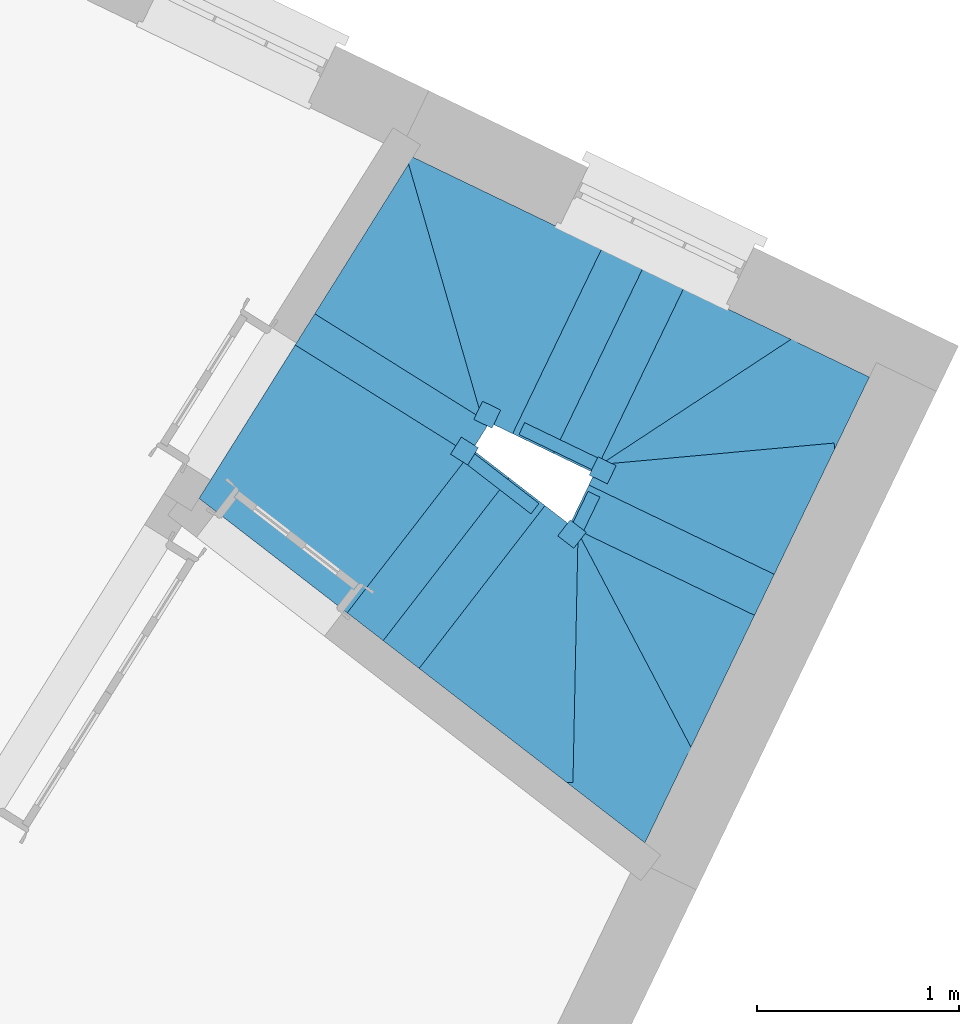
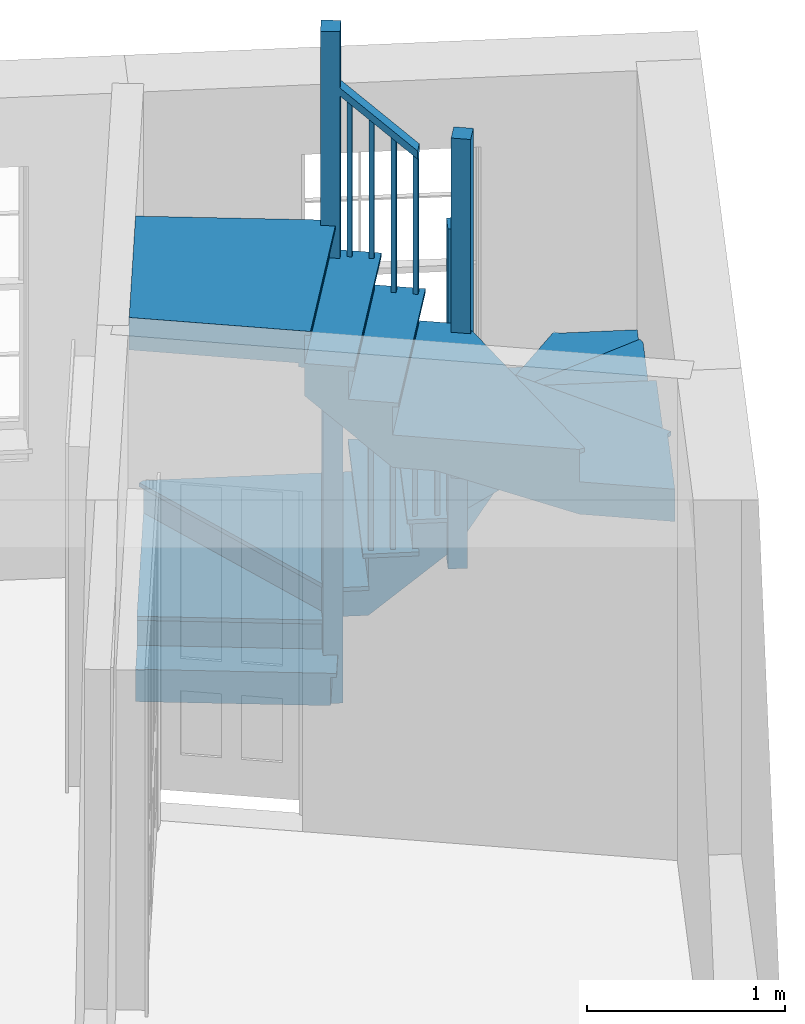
# One storey, part 4 of 4: 1 stair.
"""IFC4 building model written with IfcOpenShell, lengths in metres."""

import ifcopenshell
import ifcopenshell.guid

model = None  # the IFC model being written
_history = None  # IfcOwnerHistory: only IFC2X3 demands one
_inside = {}  # id of a spatial element -> (the spatial element, [elements in it])
_under = {}  # id of a project, library or spatial element -> (it, [spatial elements below it])
_declared = {}  # id of a project -> (the project, [libraries it declares])
_typed = {}  # id of a type object -> (the type object, [elements of that type])
_made_of = {}  # id of a material, layer set ... -> (it, [elements and type objects made of it])


def new_model(schema):
    """Start an empty IFC model of exactly this schema.

    Asked for "IFC4X3", IfcOpenShell would pick the latest addendum, in which some entities
    have other attributes; the version numbers below select the first issue.
    IFC2X3 requires an IfcOwnerHistory on every rooted entity: one is made here for all.
    """
    global model, _history
    if schema == "IFC4X3":
        model = ifcopenshell.file(schema_version=(4, 3, 0, 0))
    else:
        model = ifcopenshell.file(schema=schema)
    _inside.clear()
    _under.clear()
    _declared.clear()
    _typed.clear()
    _made_of.clear()
    _history = None
    if model.schema == "IFC2X3":
        org = make("IfcOrganization", Name="unknown")
        user = make(
            "IfcPersonAndOrganization",
            ThePerson=make("IfcPerson", FamilyName="unknown"),
            TheOrganization=org,
        )
        app = make(
            "IfcApplication",
            ApplicationDeveloper=org,
            Version="unknown",
            ApplicationFullName="unknown",
            ApplicationIdentifier="unknown",
        )
        _history = make(
            "IfcOwnerHistory",
            OwningUser=user,
            OwningApplication=app,
            ChangeAction="ADDED",
            CreationDate=0,
        )
    return model


def make(cls, **values):
    """One entity of the class cls with the attributes given. An attribute that is None is left unset."""
    return model.create_entity(
        cls, **{name: value for name, value in values.items() if value is not None}
    )


def rooted(cls, **values):
    """An entity with a GlobalId (a new one), such as an element, a storey or a relation."""
    return make(cls, GlobalId=ifcopenshell.guid.new(), OwnerHistory=_history, **values)


def si_unit(unit_type, name, prefix=None):
    """IfcSIUnit, for example si_unit("LENGTHUNIT", "METRE", prefix="MILLI")."""
    return make("IfcSIUnit", UnitType=unit_type, Prefix=prefix, Name=name)


def assignment(units):
    """IfcUnitAssignment: the units of a project."""
    return None if units is None else make("IfcUnitAssignment", Units=units)


def point(xyz):
    """IfcCartesianPoint."""
    return None if xyz is None else make("IfcCartesianPoint", Coordinates=xyz)


def direction(xyz):
    """IfcDirection."""
    return None if xyz is None else make("IfcDirection", DirectionRatios=xyz)


def frame(location, z_axis=None, x_axis=None):
    """IfcAxis2Placement3D, a coordinate frame: its origin and axes. An axis left out is left unset."""
    return make(
        "IfcAxis2Placement3D",
        Location=point(location),
        Axis=direction(z_axis),
        RefDirection=direction(x_axis),
    )


def origin():
    """The frame at (0, 0, 0) with its axes left unset."""
    return frame((0.0, 0.0, 0.0))


def origin_with_axes():
    """The frame at (0, 0, 0) with the z axis (0, 0, 1) and the x axis (1, 0, 0) written out."""
    return frame((0.0, 0.0, 0.0), z_axis=(0.0, 0.0, 1.0), x_axis=(1.0, 0.0, 0.0))


def place(relative_to, where):
    """IfcLocalPlacement: puts the frame where relative to a parent placement (None: the world)."""
    return make(
        "IfcLocalPlacement", PlacementRelTo=relative_to, RelativePlacement=where
    )


def context(
    kind, dimensions, precision=None, world=None, true_north=None, identifier=None
):
    """IfcGeometricRepresentationContext, for example the 3D "Model" context."""
    return make(
        "IfcGeometricRepresentationContext",
        ContextIdentifier=identifier,
        ContextType=kind,
        CoordinateSpaceDimension=dimensions,
        Precision=precision,
        WorldCoordinateSystem=world,
        TrueNorth=true_north,
    )


def subcontext(parent, identifier, kind, view, scale=None):
    """IfcGeometricRepresentationSubContext, for example "Body" below "Model"."""
    return make(
        "IfcGeometricRepresentationSubContext",
        ContextIdentifier=identifier,
        ContextType=kind,
        ParentContext=parent,
        TargetScale=scale,
        TargetView=view,
    )


def project(units=None, contexts=None):
    """IfcProject with its units and contexts."""
    return rooted(
        "IfcProject",
        Name="project",
        RepresentationContexts=contexts,
        UnitsInContext=assignment(units),
    )


def spatial(cls, under=None, at=None, **own):
    """A site, building, storey or space (cls), placed at a placement, below another one or the project."""
    s = rooted(cls, ObjectPlacement=at, **own)
    if under is not None:
        _under.setdefault(under.id(), (under, []))[1].append(s)
    return s


def faces_of(points, faces, orient=None, outer=None):
    """IfcFace entities. A face is a list of loops; a loop is a list of indices into points, from 0.

    orient and outer hold one flag for each loop. By default every Orientation is true, the
    first loop of a face is its IfcFaceOuterBound and the others are IfcFaceBound.
    """
    made = []
    for i, loops in enumerate(faces):
        bounds = []
        for j, loop in enumerate(loops):
            is_outer = j == 0 if outer is None else outer[i][j]
            bounds.append(
                make(
                    "IfcFaceOuterBound" if is_outer else "IfcFaceBound",
                    Bound=make("IfcPolyLoop", Polygon=[points[k] for k in loop]),
                    Orientation=True if orient is None else orient[i][j],
                )
            )
        made.append(make("IfcFace", Bounds=bounds))
    return made


def faceted_brep(points, faces, orient=None, outer=None, voids=None):
    """IfcFacetedBrep: a solid bounded by flat faces; with voids (closed shells), ...WithVoids."""
    shared = [point(p) for p in points]
    hull = make("IfcClosedShell", CfsFaces=faces_of(shared, faces, orient, outer))
    if voids is None:
        return make("IfcFacetedBrep", Outer=hull)
    return make(
        "IfcFacetedBrepWithVoids",
        Outer=hull,
        Voids=[
            make(cls, CfsFaces=faces_of(shared, fs, o, b)) for cls, fs, o, b in voids
        ],
    )


def shape(context_of_items, identifier, shape_type, items):
    """IfcShapeRepresentation: the items that make up one representation, for example the "Body"."""
    return make(
        "IfcShapeRepresentation",
        ContextOfItems=context_of_items,
        RepresentationIdentifier=identifier,
        RepresentationType=shape_type,
        Items=items,
    )


def made_of(thing, what):
    """Note that an element or type object is made of a material, layer set ...; save() writes the relation."""
    if what is not None:
        _made_of.setdefault(what.id(), (what, []))[1].append(thing)
    return thing


def element(
    cls,
    number,
    at=None,
    inside=None,
    cuts=None,
    type_object=None,
    material=None,
    context=None,
    identifier="Body",
    shape_type=None,
    held_by="IfcProductDefinitionShape",
    body=None,
    shapes=None,
    **own,
):
    """One element of the class cls, such as IfcWall. Its Tag is "e" and its number.

    at: its placement. inside: the storey or other place that contains it. cuts: it is an
    opening in that element (IfcRelVoidsElement). A single representation is given by context,
    identifier, shape_type and body (its items); several are given by shapes. held_by: the class
    of the entity that holds the representations. save() writes the other relations.
    """
    e = rooted(cls, Tag="e%d" % number, ObjectPlacement=at, **own)
    if body is not None:
        shapes = [shape(context, identifier, shape_type, body)]
    if shapes is not None:
        e.Representation = make(held_by, Representations=shapes)
    if inside is not None:
        _inside.setdefault(inside.id(), (inside, []))[1].append(e)
    if cuts is not None:
        rooted(
            "IfcRelVoidsElement", RelatingBuildingElement=cuts, RelatedOpeningElement=e
        )
    if type_object is not None:
        _typed.setdefault(type_object.id(), (type_object, []))[1].append(e)
    return made_of(e, material)


def aggregate(whole, parts):
    """IfcRelAggregates: a whole, such as a stair, and the parts it consists of."""
    return rooted("IfcRelAggregates", RelatingObject=whole, RelatedObjects=parts)


def save(model, path):
    """Write the relations noted so far, then the file.

    IfcRelAggregates (storeys below a building ...), IfcRelContainedInSpatialStructure (elements
    in a storey), IfcRelDefinesByType, IfcRelAssociatesMaterial and IfcRelDeclares: one each for
    every whole, place, type object, material and project.
    """
    for whole, parts in _under.values():
        aggregate(whole, parts)
    for where, things in _inside.values():
        rooted(
            "IfcRelContainedInSpatialStructure",
            RelatedElements=things,
            RelatingStructure=where,
        )
    for kind, things in _typed.values():
        rooted("IfcRelDefinesByType", RelatedObjects=things, RelatingType=kind)
    for what, things in _made_of.values():
        rooted("IfcRelAssociatesMaterial", RelatedObjects=things, RelatingMaterial=what)
    for by, libraries in _declared.values():
        rooted("IfcRelDeclares", RelatingContext=by, RelatedDefinitions=libraries)
    model.write(path)


model = new_model("IFC4")

# Units and contexts
model_context = context("Model", 3, world=origin_with_axes())
body_context = subcontext(model_context, "Body", "Model", "MODEL_VIEW")
ifc_project = project(units=[si_unit("PLANEANGLEUNIT", "RADIAN"), si_unit("MASSUNIT", "GRAM", prefix="KILO"), si_unit("FORCEUNIT", "NEWTON", prefix="KILO"), si_unit("LENGTHUNIT", "METRE"), si_unit("AREAUNIT", "SQUARE_METRE"), si_unit("VOLUMEUNIT", "CUBIC_METRE")], contexts=[model_context, model_context])

# Sites, building, storey
site_1_placement = place(None, origin_with_axes())
site_1 = spatial("IfcSite", under=ifc_project, at=site_1_placement, Name="Tamar")
site_2_placement = place(site_1_placement, origin_with_axes())
site_2 = spatial("IfcSite", under=site_1, at=site_2_placement, Name="Site plot-0", CompositionType="ELEMENT")
building_placement = place(None, origin_with_axes())
building = spatial("IfcBuilding", under=site_2, at=building_placement, Name="Building plot-0", CompositionType="ELEMENT")
storey_placement = place(None, frame((0.0, 0.0, 29.3), z_axis=(0.0, 0.0, 1.0), x_axis=(1.0, 0.0, 0.0)))
storey = spatial("IfcBuildingStorey", under=building, at=storey_placement, Name="plot-0 1", CompositionType="ELEMENT", Elevation=29.3)

# Stair
stair_placement = place(None, origin())
element("IfcStair", 1, at=stair_placement, inside=storey, Name="Stair", PredefinedType="NOTDEFINED", context=body_context, shape_type="Brep", body=[
    faceted_brep([(219.2889, 299.676695, 32.1), (218.684835, 298.894737, 32.1), (218.862893, 298.757186, 32.1), (219.466959, 299.539144, 32.1), (219.466959, 299.539144, 31.7), (218.862893, 298.757186, 31.7), (218.684835, 298.894737, 31.9), (219.2889, 299.676695, 31.9)], [[[0, 1, 2, 3]], [[4, 5, 6, 7]], [[7, 6, 1, 0]], [[1, 6, 5, 2]], [[5, 4, 3, 2]], [[3, 4, 7, 0]]]),
    faceted_brep([(218.862893, 298.757186, 32.075), (218.886634, 298.738846, 32.075), (218.862893, 298.757186, 32.1), (218.661094, 298.913077, 32.075), (218.684835, 298.894737, 32.075), (218.684835, 298.894737, 32.1), (218.886634, 298.738846, 32.1), (218.661094, 298.913077, 32.1), (219.50904, 299.544545, 32.1), (219.466959, 299.539144, 32.1), (219.466959, 299.539144, 32.075), (219.50904, 299.544545, 32.075), (219.283499, 299.718776, 32.1), (219.2889, 299.676695, 32.1), (219.2889, 299.676695, 32.075), (219.283499, 299.718776, 32.075)], [[[0, 1, 2]], [[3, 4, 5]], [[1, 6, 2]], [[7, 3, 5]], [[2, 6, 8, 9]], [[0, 2, 9, 10]], [[1, 0, 10, 11]], [[6, 1, 11, 8]], [[9, 8, 12, 13]], [[10, 9, 13, 14]], [[11, 10, 14, 15]], [[8, 11, 15, 12]], [[13, 12, 7, 5]], [[14, 13, 5, 4]], [[15, 14, 4, 3]], [[12, 15, 3, 7]]]),
    faceted_brep([(219.466959, 299.539144, 33.0), (219.447175, 299.554428, 33.0), (219.431891, 299.534643, 33.0), (219.451675, 299.51936, 33.0), (219.451675, 299.51936, 32.1), (219.431891, 299.534643, 32.1), (219.447175, 299.554428, 32.1), (219.466959, 299.539144, 32.1)], [[[0, 1, 2, 3]], [[4, 5, 6, 7]], [[7, 6, 1, 0]], [[6, 5, 2, 1]], [[5, 4, 3, 2]], [[4, 7, 0, 3]]]),
    faceted_brep([(219.37793, 299.60792, 33.1), (219.358145, 299.623203, 33.1), (219.342862, 299.603419, 33.1), (219.362646, 299.588135, 33.1), (219.362646, 299.588135, 32.1), (219.342862, 299.603419, 32.1), (219.358145, 299.623203, 32.1), (219.37793, 299.60792, 32.1)], [[[0, 1, 2, 3]], [[4, 5, 6, 7]], [[7, 6, 1, 0]], [[6, 5, 2, 1]], [[5, 4, 3, 2]], [[4, 7, 0, 3]]]),
    faceted_brep([(219.439449, 299.503533, 32.95), (219.479186, 299.554972, 32.95), (219.479186, 299.554972, 33.0), (219.439449, 299.503533, 33.0), (219.301127, 299.692522, 33.15), (219.26139, 299.641083, 33.15), (219.26139, 299.641083, 33.2), (219.301127, 299.692522, 33.2)], [[[0, 1, 2, 3]], [[4, 5, 6, 7]], [[0, 5, 4, 1]], [[3, 2, 7, 6]], [[0, 3, 6, 5]], [[2, 1, 4, 7]]]),
    faceted_brep([(219.466959, 299.539144, 31.9), (218.862893, 298.757186, 31.9), (219.040952, 298.619635, 31.9), (219.645017, 299.401594, 31.9), (219.645017, 299.401594, 31.5), (219.040952, 298.619635, 31.5), (218.862893, 298.757186, 31.7), (219.466959, 299.539144, 31.7)], [[[0, 1, 2, 3]], [[4, 5, 6, 7]], [[7, 6, 1, 0]], [[1, 6, 5, 2]], [[5, 4, 3, 2]], [[3, 4, 7, 0]]]),
    faceted_brep([(219.064693, 298.601295, 31.875), (219.064693, 298.601295, 31.9), (219.040952, 298.619635, 31.875), (218.839152, 298.775526, 31.9), (218.839152, 298.775526, 31.875), (218.862893, 298.757186, 31.875), (219.040952, 298.619635, 31.9), (218.862893, 298.757186, 31.9), (219.687099, 299.406995, 31.9), (219.645017, 299.401594, 31.9), (219.645017, 299.401594, 31.875), (219.687099, 299.406995, 31.875), (219.461558, 299.581226, 31.9), (219.466959, 299.539144, 31.9), (219.466959, 299.539144, 31.875), (219.461558, 299.581226, 31.875)], [[[0, 1, 2]], [[3, 4, 5]], [[2, 1, 6]], [[3, 5, 7]], [[6, 1, 8, 9]], [[2, 6, 9, 10]], [[0, 2, 10, 11]], [[1, 0, 11, 8]], [[9, 8, 12, 13]], [[10, 9, 13, 14]], [[11, 10, 14, 15]], [[8, 11, 15, 12]], [[13, 12, 3, 7]], [[14, 13, 7, 5]], [[15, 14, 5, 4]], [[12, 15, 4, 3]]]),
    faceted_brep([(219.645017, 299.401594, 32.8), (219.625233, 299.416877, 32.8), (219.60995, 299.397093, 32.8), (219.629734, 299.381809, 32.8), (219.629734, 299.381809, 31.9), (219.60995, 299.397093, 31.9), (219.625233, 299.416877, 31.9), (219.645017, 299.401594, 31.9)], [[[0, 1, 2, 3]], [[4, 5, 6, 7]], [[7, 6, 1, 0]], [[6, 5, 2, 1]], [[5, 4, 3, 2]], [[4, 7, 0, 3]]]),
    faceted_brep([(219.555988, 299.470369, 32.9), (219.536204, 299.485652, 32.9), (219.52092, 299.465868, 32.9), (219.540705, 299.450585, 32.9), (219.540705, 299.450585, 31.9), (219.52092, 299.465868, 31.9), (219.536204, 299.485652, 31.9), (219.555988, 299.470369, 31.9)], [[[0, 1, 2, 3]], [[4, 5, 6, 7]], [[7, 6, 1, 0]], [[6, 5, 2, 1]], [[5, 4, 3, 2]], [[4, 7, 0, 3]]]),
    faceted_brep([(219.617507, 299.365982, 32.75), (219.657244, 299.417421, 32.75), (219.657244, 299.417421, 32.8), (219.617507, 299.365982, 32.8), (219.479186, 299.554972, 32.95), (219.439449, 299.503533, 32.95), (219.439449, 299.503533, 33.0), (219.479186, 299.554972, 33.0)], [[[0, 1, 2, 3]], [[4, 5, 6, 7]], [[0, 5, 4, 1]], [[3, 2, 7, 6]], [[0, 3, 6, 5]], [[2, 1, 4, 7]]]),
    faceted_brep([(219.645017, 299.401594, 31.7), (219.040952, 298.619635, 31.7), (219.21646, 298.484054, 31.7), (219.820526, 299.266013, 31.7), (219.820526, 299.266013, 31.5), (219.21646, 298.484054, 31.5), (219.040952, 298.619635, 31.5), (219.645017, 299.401594, 31.5)], [[[0, 1, 2, 3]], [[4, 5, 6, 7]], [[7, 6, 1, 0]], [[6, 5, 2, 1]], [[5, 4, 3, 2]], [[4, 7, 0, 3]]]),
    faceted_brep([(219.820526, 299.266013, 31.675), (219.838866, 299.289754, 31.675), (219.820526, 299.266013, 31.7), (219.663357, 299.425335, 31.675), (219.645017, 299.401594, 31.675), (219.645017, 299.401594, 31.7), (219.838866, 299.289754, 31.7), (219.663357, 299.425335, 31.7)], [[[0, 1, 2]], [[3, 4, 5]], [[1, 6, 2]], [[7, 3, 5]], [[2, 6, 7, 5]], [[0, 2, 5, 4]], [[1, 0, 4, 3]], [[6, 1, 3, 7]]]),
    faceted_brep([(219.890661, 299.275015, 32.9), (219.811524, 299.336148, 32.9), (219.75039, 299.257011, 32.9), (219.829527, 299.195877, 32.9), (219.829527, 299.195877, 31.7), (219.75039, 299.257011, 31.7), (219.811524, 299.336148, 31.7), (219.890661, 299.275015, 31.7)], [[[0, 1, 2, 3]], [[4, 5, 6, 7]], [[7, 6, 1, 0]], [[6, 5, 2, 1]], [[5, 4, 3, 2]], [[4, 7, 0, 3]]]),
    faceted_brep([(219.21646, 298.484054, 31.7), (219.795399, 298.036822, 31.7), (219.820526, 299.266013, 31.7), (219.820526, 299.266013, 31.3), (219.795399, 298.036822, 31.3), (219.21646, 298.484054, 31.5)], [[[0, 1, 2]], [[3, 4, 5]], [[0, 5, 4, 1]], [[4, 3, 2, 1]], [[2, 3, 5, 0]]]),
    faceted_brep([(219.825393, 298.036209, 31.675), (219.825393, 298.036209, 31.7), (219.795399, 298.036822, 31.675), (219.850519, 299.2654, 31.7), (219.850519, 299.2654, 31.675), (219.820526, 299.266013, 31.675), (219.795399, 298.036822, 31.7), (219.820526, 299.266013, 31.7)], [[[0, 1, 2]], [[3, 4, 5]], [[2, 1, 6]], [[3, 5, 7]], [[6, 1, 3, 7]], [[2, 6, 7, 5]], [[0, 2, 5, 4]], [[1, 0, 4, 3]]]),
    faceted_brep([(219.795399, 298.036822, 31.5), (220.181359, 297.738667, 31.5), (220.393082, 298.178024, 31.5), (219.820526, 299.266013, 31.5), (219.820526, 299.266013, 31.1), (220.393082, 298.178024, 31.1), (220.181359, 297.738667, 31.3), (219.795399, 298.036822, 31.3)], [[[0, 1, 2, 3]], [[4, 5, 6, 7]], [[7, 6, 1, 0]], [[1, 6, 5, 2]], [[5, 4, 3, 2]], [[3, 4, 7, 0]]]),
    faceted_brep([(220.419631, 298.191995, 31.475), (220.419631, 298.191995, 31.5), (220.393082, 298.178024, 31.475), (219.847074, 299.279984, 31.5), (219.847074, 299.279984, 31.475), (219.820526, 299.266013, 31.475), (220.393082, 298.178024, 31.5), (219.820526, 299.266013, 31.5)], [[[0, 1, 2]], [[3, 4, 5]], [[2, 1, 6]], [[3, 5, 7]], [[6, 1, 3, 7]], [[2, 6, 7, 5]], [[0, 2, 5, 4]], [[1, 0, 4, 3]]]),
    faceted_brep([(220.393082, 298.178024, 31.3), (220.710667, 298.837059, 31.3), (219.820526, 299.266013, 31.3), (219.820526, 299.266013, 30.9), (220.710667, 298.837059, 30.9), (220.393082, 298.178024, 31.1)], [[[0, 1, 2]], [[3, 4, 5]], [[0, 5, 4, 1]], [[4, 3, 2, 1]], [[2, 3, 5, 0]]]),
    faceted_brep([(220.710667, 298.837059, 31.275), (220.723691, 298.864084, 31.275), (220.710667, 298.837059, 31.3), (219.833549, 299.293038, 31.275), (219.820526, 299.266013, 31.275), (219.820526, 299.266013, 31.3), (220.723691, 298.864084, 31.3), (219.833549, 299.293038, 31.3)], [[[0, 1, 2]], [[3, 4, 5]], [[1, 6, 2]], [[7, 3, 5]], [[2, 6, 7, 5]], [[0, 2, 5, 4]], [[1, 0, 4, 3]], [[6, 1, 3, 7]]]),
    faceted_brep([(219.890661, 299.275015, 31.7), (219.811524, 299.336148, 31.7), (219.75039, 299.257011, 31.7), (219.829527, 299.195877, 31.7), (219.829527, 299.195877, 30.8), (219.75039, 299.257011, 30.8), (219.811524, 299.336148, 30.8), (219.890661, 299.275015, 30.8)], [[[0, 1, 2, 3]], [[4, 5, 6, 7]], [[7, 6, 1, 0]], [[6, 5, 2, 1]], [[5, 4, 3, 2]], [[4, 7, 0, 3]]]),
    faceted_brep([(219.820526, 299.266013, 31.1), (220.710667, 298.837059, 31.1), (220.808344, 299.039751, 31.1), (219.918202, 299.468705, 31.1), (219.918202, 299.468705, 30.7), (220.808344, 299.039751, 30.7), (220.710667, 298.837059, 30.9), (219.820526, 299.266013, 30.9)], [[[0, 1, 2, 3]], [[4, 5, 6, 7]], [[7, 6, 1, 0]], [[1, 6, 5, 2]], [[5, 4, 3, 2]], [[3, 4, 7, 0]]]),
    faceted_brep([(220.808344, 299.039751, 31.075), (220.821367, 299.066777, 31.075), (220.808344, 299.039751, 31.1), (220.697644, 298.810033, 31.075), (220.710667, 298.837059, 31.075), (220.710667, 298.837059, 31.1), (220.821367, 299.066777, 31.1), (220.697644, 298.810033, 31.1), (219.9042, 299.508755, 31.1), (219.918202, 299.468705, 31.1), (219.918202, 299.468705, 31.075), (219.9042, 299.508755, 31.075), (219.780476, 299.252011, 31.1), (219.820526, 299.266013, 31.1), (219.820526, 299.266013, 31.075), (219.780476, 299.252011, 31.075)], [[[0, 1, 2]], [[3, 4, 5]], [[1, 6, 2]], [[7, 3, 5]], [[2, 6, 8, 9]], [[0, 2, 9, 10]], [[1, 0, 10, 11]], [[6, 1, 11, 8]], [[9, 8, 12, 13]], [[10, 9, 13, 14]], [[11, 10, 14, 15]], [[8, 11, 15, 12]], [[13, 12, 7, 5]], [[14, 13, 5, 4]], [[15, 14, 4, 3]], [[12, 15, 3, 7]]]),
    faceted_brep([(219.918202, 299.468705, 32.0), (219.907349, 299.446184, 32.0), (219.929871, 299.435331, 32.0), (219.940723, 299.457853, 32.0), (219.940723, 299.457853, 31.1), (219.929871, 299.435331, 31.1), (219.907349, 299.446184, 31.1), (219.918202, 299.468705, 31.1)], [[[0, 1, 2, 3]], [[4, 5, 6, 7]], [[7, 6, 1, 0]], [[6, 5, 2, 1]], [[5, 4, 3, 2]], [[4, 7, 0, 3]]]),
    faceted_brep([(219.869364, 299.367359, 32.1), (219.858511, 299.344838, 32.1), (219.881032, 299.333985, 32.1), (219.891885, 299.356506, 32.1), (219.891885, 299.356506, 31.1), (219.881032, 299.333985, 31.1), (219.858511, 299.344838, 31.1), (219.869364, 299.367359, 31.1)], [[[0, 1, 2, 3]], [[4, 5, 6, 7]], [[7, 6, 1, 0]], [[6, 5, 2, 1]], [[5, 4, 3, 2]], [[4, 7, 0, 3]]]),
    faceted_brep([(219.958741, 299.44917, 31.95), (219.900185, 299.477388, 31.95), (219.900185, 299.477388, 32.0), (219.958741, 299.44917, 32.0), (219.802508, 299.274695, 32.15), (219.861064, 299.246478, 32.15), (219.861064, 299.246478, 32.2), (219.802508, 299.274695, 32.2)], [[[0, 1, 2, 3]], [[4, 5, 6, 7]], [[0, 5, 4, 1]], [[3, 2, 7, 6]], [[0, 3, 6, 5]], [[2, 1, 4, 7]]]),
    faceted_brep([(219.918202, 299.468705, 30.9), (220.808344, 299.039751, 30.9), (220.862556, 299.15225, 30.9), (219.972415, 299.581204, 30.9), (219.972415, 299.581204, 30.7), (220.862556, 299.15225, 30.7), (220.808344, 299.039751, 30.7), (219.918202, 299.468705, 30.7)], [[[0, 1, 2, 3]], [[4, 5, 6, 7]], [[7, 6, 1, 0]], [[6, 5, 2, 1]], [[5, 4, 3, 2]], [[4, 7, 0, 3]]]),
    faceted_brep([(219.945389, 299.594228, 30.875), (219.945389, 299.594228, 30.9), (219.972415, 299.581204, 30.875), (219.891176, 299.481729, 30.9), (219.891176, 299.481729, 30.875), (219.918202, 299.468705, 30.875), (219.972415, 299.581204, 30.9), (219.918202, 299.468705, 30.9)], [[[0, 1, 2]], [[3, 4, 5]], [[2, 1, 6]], [[3, 5, 7]], [[6, 1, 3, 7]], [[2, 6, 7, 5]], [[0, 2, 5, 4]], [[1, 0, 4, 3]]]),
    faceted_brep([(219.949078, 299.647953, 32.1), (219.905666, 299.557867, 32.1), (219.995752, 299.514456, 32.1), (220.039163, 299.604541, 32.1), (220.039163, 299.604541, 30.9), (219.995752, 299.514456, 30.9), (219.905666, 299.557867, 30.9), (219.949078, 299.647953, 30.9)], [[[0, 1, 2, 3]], [[4, 5, 6, 7]], [[7, 6, 1, 0]], [[6, 5, 2, 1]], [[5, 4, 3, 2]], [[4, 7, 0, 3]]]),
    faceted_brep([(220.862556, 299.15225, 30.9), (221.119929, 299.686335, 30.9), (219.972415, 299.581204, 30.9), (219.972415, 299.581204, 30.5), (221.119929, 299.686335, 30.5), (220.862556, 299.15225, 30.7)], [[[0, 1, 2]], [[3, 4, 5]], [[0, 5, 4, 1]], [[4, 3, 2, 1]], [[2, 3, 5, 0]]]),
    faceted_brep([(221.117192, 299.71621, 30.875), (221.117192, 299.71621, 30.9), (221.119929, 299.686335, 30.875), (219.969678, 299.611079, 30.9), (219.969678, 299.611079, 30.875), (219.972415, 299.581204, 30.875), (221.119929, 299.686335, 30.9), (219.972415, 299.581204, 30.9)], [[[0, 1, 2]], [[3, 4, 5]], [[2, 1, 6]], [[3, 5, 7]], [[6, 1, 3, 7]], [[2, 6, 7, 5]], [[0, 2, 5, 4]], [[1, 0, 4, 3]]]),
    faceted_brep([(221.119929, 299.686335, 30.7), (221.291511, 300.042392, 30.7), (220.935454, 300.213974, 30.7), (219.972415, 299.581204, 30.7), (219.972415, 299.581204, 30.3), (220.935454, 300.213974, 30.3), (221.291511, 300.042392, 30.5), (221.119929, 299.686335, 30.5)], [[[0, 1, 2, 3]], [[4, 5, 6, 7]], [[7, 6, 1, 0]], [[1, 6, 5, 2]], [[5, 4, 3, 2]], [[3, 4, 7, 0]]]),
    faceted_brep([(220.91898, 300.239046, 30.675), (220.91898, 300.239046, 30.7), (220.935454, 300.213974, 30.675), (219.955941, 299.606277, 30.7), (219.955941, 299.606277, 30.675), (219.972415, 299.581204, 30.675), (220.935454, 300.213974, 30.7), (219.972415, 299.581204, 30.7)], [[[0, 1, 2]], [[3, 4, 5]], [[2, 1, 6]], [[3, 5, 7]], [[6, 1, 3, 7]], [[2, 6, 7, 5]], [[0, 2, 5, 4]], [[1, 0, 4, 3]]]),
    faceted_brep([(220.935454, 300.213974, 30.5), (220.401369, 300.471346, 30.5), (219.972415, 299.581204, 30.5), (219.972415, 299.581204, 30.1), (220.401369, 300.471346, 30.1), (220.935454, 300.213974, 30.3)], [[[0, 1, 2]], [[3, 4, 5]], [[0, 5, 4, 1]], [[4, 3, 2, 1]], [[2, 3, 5, 0]]]),
    faceted_brep([(220.374343, 300.48437, 30.475), (220.374343, 300.48437, 30.5), (220.401369, 300.471346, 30.475), (219.945389, 299.594228, 30.5), (219.945389, 299.594228, 30.475), (219.972415, 299.581204, 30.475), (220.401369, 300.471346, 30.5), (219.972415, 299.581204, 30.5)], [[[0, 1, 2]], [[3, 4, 5]], [[2, 1, 6]], [[3, 5, 7]], [[6, 1, 3, 7]], [[2, 6, 7, 5]], [[0, 2, 5, 4]], [[1, 0, 4, 3]]]),
    faceted_brep([(219.949078, 299.647953, 30.9), (219.905666, 299.557867, 30.9), (219.995752, 299.514456, 30.9), (220.039163, 299.604541, 30.9), (220.039163, 299.604541, 30.0), (219.995752, 299.514456, 30.0), (219.905666, 299.557867, 30.0), (219.949078, 299.647953, 30.0)], [[[0, 1, 2, 3]], [[4, 5, 6, 7]], [[7, 6, 1, 0]], [[6, 5, 2, 1]], [[5, 4, 3, 2]], [[4, 7, 0, 3]]]),
    faceted_brep([(219.972415, 299.581204, 30.3), (220.401369, 300.471346, 30.3), (220.198676, 300.569023, 30.3), (219.769722, 299.678881, 30.3), (219.769722, 299.678881, 29.9), (220.198676, 300.569023, 29.9), (220.401369, 300.471346, 30.1), (219.972415, 299.581204, 30.1)], [[[0, 1, 2, 3]], [[4, 5, 6, 7]], [[7, 6, 1, 0]], [[1, 6, 5, 2]], [[5, 4, 3, 2]], [[3, 4, 7, 0]]]),
    faceted_brep([(220.198676, 300.569023, 30.275), (220.17165, 300.582046, 30.275), (220.198676, 300.569023, 30.3), (220.428394, 300.458323, 30.275), (220.401369, 300.471346, 30.275), (220.401369, 300.471346, 30.3), (220.17165, 300.582046, 30.3), (220.428394, 300.458323, 30.3), (219.729673, 299.664879, 30.3), (219.769722, 299.678881, 30.3), (219.769722, 299.678881, 30.275), (219.729673, 299.664879, 30.275), (219.986417, 299.541155, 30.3), (219.972415, 299.581204, 30.3), (219.972415, 299.581204, 30.275), (219.986417, 299.541155, 30.275)], [[[0, 1, 2]], [[3, 4, 5]], [[1, 6, 2]], [[7, 3, 5]], [[2, 6, 8, 9]], [[0, 2, 9, 10]], [[1, 0, 10, 11]], [[6, 1, 11, 8]], [[9, 8, 12, 13]], [[10, 9, 13, 14]], [[11, 10, 14, 15]], [[8, 11, 15, 12]], [[13, 12, 7, 5]], [[14, 13, 5, 4]], [[15, 14, 4, 3]], [[12, 15, 3, 7]]]),
    faceted_brep([(219.769722, 299.678881, 31.2), (219.792243, 299.668028, 31.2), (219.803096, 299.690549, 31.2), (219.780575, 299.701402, 31.2), (219.780575, 299.701402, 30.3), (219.803096, 299.690549, 30.3), (219.792243, 299.668028, 30.3), (219.769722, 299.678881, 30.3)], [[[0, 1, 2, 3]], [[4, 5, 6, 7]], [[7, 6, 1, 0]], [[6, 5, 2, 1]], [[5, 4, 3, 2]], [[4, 7, 0, 3]]]),
    faceted_brep([(219.871068, 299.630043, 31.3), (219.89359, 299.61919, 31.3), (219.904443, 299.641711, 31.3), (219.881921, 299.652564, 31.3), (219.881921, 299.652564, 30.3), (219.904443, 299.641711, 30.3), (219.89359, 299.61919, 30.3), (219.871068, 299.630043, 30.3)], [[[0, 1, 2, 3]], [[4, 5, 6, 7]], [[7, 6, 1, 0]], [[6, 5, 2, 1]], [[5, 4, 3, 2]], [[4, 7, 0, 3]]]),
    faceted_brep([(219.789257, 299.719419, 31.15), (219.76104, 299.660864, 31.15), (219.76104, 299.660864, 31.2), (219.789257, 299.719419, 31.2), (219.963732, 299.563187, 31.35), (219.99195, 299.621743, 31.35), (219.99195, 299.621743, 31.4), (219.963732, 299.563187, 31.4)], [[[0, 1, 2, 3]], [[4, 5, 6, 7]], [[0, 5, 4, 1]], [[3, 2, 7, 6]], [[0, 3, 6, 5]], [[2, 1, 4, 7]]]),
    faceted_brep([(219.769722, 299.678881, 30.1), (220.198676, 300.569023, 30.1), (219.995983, 300.666699, 30.1), (219.567029, 299.776557, 30.1), (219.567029, 299.776557, 29.7), (219.995983, 300.666699, 29.7), (220.198676, 300.569023, 29.9), (219.769722, 299.678881, 29.9)], [[[0, 1, 2, 3]], [[4, 5, 6, 7]], [[7, 6, 1, 0]], [[1, 6, 5, 2]], [[5, 4, 3, 2]], [[3, 4, 7, 0]]]),
    faceted_brep([(219.995983, 300.666699, 30.075), (219.968958, 300.679723, 30.075), (219.995983, 300.666699, 30.1), (220.225702, 300.555999, 30.075), (220.198676, 300.569023, 30.075), (220.198676, 300.569023, 30.1), (219.968958, 300.679723, 30.1), (220.225702, 300.555999, 30.1), (219.52698, 299.762555, 30.1), (219.567029, 299.776557, 30.1), (219.567029, 299.776557, 30.075), (219.52698, 299.762555, 30.075), (219.783724, 299.638832, 30.1), (219.769722, 299.678881, 30.1), (219.769722, 299.678881, 30.075), (219.783724, 299.638832, 30.075)], [[[0, 1, 2]], [[3, 4, 5]], [[1, 6, 2]], [[7, 3, 5]], [[2, 6, 8, 9]], [[0, 2, 9, 10]], [[1, 0, 10, 11]], [[6, 1, 11, 8]], [[9, 8, 12, 13]], [[10, 9, 13, 14]], [[11, 10, 14, 15]], [[8, 11, 15, 12]], [[13, 12, 7, 5]], [[14, 13, 5, 4]], [[15, 14, 4, 3]], [[12, 15, 3, 7]]]),
    faceted_brep([(219.567029, 299.776557, 31.0), (219.589551, 299.765704, 31.0), (219.600404, 299.788226, 31.0), (219.577882, 299.799079, 31.0), (219.577882, 299.799079, 30.1), (219.600404, 299.788226, 30.1), (219.589551, 299.765704, 30.1), (219.567029, 299.776557, 30.1)], [[[0, 1, 2, 3]], [[4, 5, 6, 7]], [[7, 6, 1, 0]], [[6, 5, 2, 1]], [[5, 4, 3, 2]], [[4, 7, 0, 3]]]),
    faceted_brep([(219.668376, 299.727719, 31.1), (219.690897, 299.716866, 31.1), (219.70175, 299.739387, 31.1), (219.679229, 299.75024, 31.1), (219.679229, 299.75024, 30.1), (219.70175, 299.739387, 30.1), (219.690897, 299.716866, 30.1), (219.668376, 299.727719, 30.1)], [[[0, 1, 2, 3]], [[4, 5, 6, 7]], [[7, 6, 1, 0]], [[6, 5, 2, 1]], [[5, 4, 3, 2]], [[4, 7, 0, 3]]]),
    faceted_brep([(219.586565, 299.817096, 30.95), (219.558347, 299.75854, 30.95), (219.558347, 299.75854, 31.0), (219.586565, 299.817096, 31.0), (219.76104, 299.660864, 31.15), (219.789257, 299.719419, 31.15), (219.789257, 299.719419, 31.2), (219.76104, 299.660864, 31.2)], [[[0, 1, 2, 3]], [[4, 5, 6, 7]], [[0, 5, 4, 1]], [[3, 2, 7, 6]], [[0, 3, 6, 5]], [[2, 1, 4, 7]]]),
    faceted_brep([(219.567029, 299.776557, 29.9), (219.995983, 300.666699, 29.9), (219.830414, 300.746486, 29.9), (219.40146, 299.856344, 29.9), (219.40146, 299.856344, 29.7), (219.830414, 300.746486, 29.7), (219.995983, 300.666699, 29.7), (219.567029, 299.776557, 29.7)], [[[0, 1, 2, 3]], [[4, 5, 6, 7]], [[7, 6, 1, 0]], [[6, 5, 2, 1]], [[5, 4, 3, 2]], [[4, 7, 0, 3]]]),
    faceted_brep([(219.388437, 299.829318, 29.875), (219.388437, 299.829318, 29.9), (219.40146, 299.856344, 29.875), (219.554006, 299.749532, 29.9), (219.554006, 299.749532, 29.875), (219.567029, 299.776557, 29.875), (219.40146, 299.856344, 29.9), (219.567029, 299.776557, 29.9)], [[[0, 1, 2]], [[3, 4, 5]], [[2, 1, 6]], [[3, 5, 7]], [[6, 1, 3, 7]], [[2, 6, 7, 5]], [[0, 2, 5, 4]], [[1, 0, 4, 3]]]),
    faceted_brep([(219.334711, 299.833007, 31.1), (219.424797, 299.789595, 31.1), (219.468209, 299.879681, 31.1), (219.378123, 299.923093, 31.1), (219.378123, 299.923093, 29.9), (219.468209, 299.879681, 29.9), (219.424797, 299.789595, 29.9), (219.334711, 299.833007, 29.9)], [[[0, 1, 2, 3]], [[4, 5, 6, 7]], [[7, 6, 1, 0]], [[6, 5, 2, 1]], [[5, 4, 3, 2]], [[4, 7, 0, 3]]]),
    faceted_brep([(219.830414, 300.746486, 29.9), (219.033699, 301.130418, 29.9), (219.40146, 299.856344, 29.9), (219.40146, 299.856344, 29.5), (219.033699, 301.130418, 29.5), (219.830414, 300.746486, 29.7)], [[[0, 1, 2]], [[3, 4, 5]], [[0, 5, 4, 1]], [[4, 3, 2, 1]], [[2, 3, 5, 0]]]),
    faceted_brep([(219.033699, 301.130418, 29.875), (219.004876, 301.122098, 29.875), (219.033699, 301.130418, 29.9), (219.372637, 299.848024, 29.875), (219.40146, 299.856344, 29.875), (219.40146, 299.856344, 29.9), (219.004876, 301.122098, 29.9), (219.372637, 299.848024, 29.9)], [[[0, 1, 2]], [[3, 4, 5]], [[1, 6, 2]], [[7, 3, 5]], [[2, 6, 7, 5]], [[0, 2, 5, 4]], [[1, 0, 4, 3]], [[6, 1, 3, 7]]]),
    faceted_brep([(219.033699, 301.130418, 29.7), (218.564133, 300.380974, 29.7), (219.40146, 299.856344, 29.7), (219.40146, 299.856344, 29.3), (218.564133, 300.380974, 29.3), (219.033699, 301.130418, 29.5)], [[[0, 1, 2]], [[3, 4, 5]], [[0, 5, 4, 1]], [[4, 3, 2, 1]], [[2, 3, 5, 0]]]),
    faceted_brep([(218.564133, 300.380974, 29.675), (218.548204, 300.355552, 29.675), (218.564133, 300.380974, 29.7), (219.385532, 299.830922, 29.675), (219.40146, 299.856344, 29.675), (219.40146, 299.856344, 29.7), (218.548204, 300.355552, 29.7), (219.385532, 299.830922, 29.7)], [[[0, 1, 2]], [[3, 4, 5]], [[1, 6, 2]], [[7, 3, 5]], [[2, 6, 7, 5]], [[0, 2, 5, 4]], [[1, 0, 4, 3]], [[6, 1, 3, 7]]]),
    faceted_brep([(219.334711, 299.833007, 29.9), (219.424797, 299.789595, 29.9), (219.468209, 299.879681, 29.9), (219.378123, 299.923093, 29.9), (219.378123, 299.923093, 29.2), (219.468209, 299.879681, 29.2), (219.424797, 299.789595, 29.2), (219.334711, 299.833007, 29.2)], [[[0, 1, 2, 3]], [[4, 5, 6, 7]], [[7, 6, 1, 0]], [[6, 5, 2, 1]], [[5, 4, 3, 2]], [[4, 7, 0, 3]]]),
    faceted_brep([(219.40146, 299.856344, 29.5), (218.564133, 300.380974, 29.5), (218.451573, 300.201325, 29.5), (219.2889, 299.676695, 29.5), (219.2889, 299.676695, 29.3), (218.451573, 300.201325, 29.3), (218.564133, 300.380974, 29.3), (219.40146, 299.856344, 29.3)], [[[0, 1, 2, 3]], [[4, 5, 6, 7]], [[7, 6, 1, 0]], [[6, 5, 2, 1]], [[5, 4, 3, 2]], [[4, 7, 0, 3]]]),
    faceted_brep([(219.2889, 299.676695, 29.475), (219.314323, 299.660767, 29.475), (219.2889, 299.676695, 29.5), (219.426882, 299.840416, 29.475), (219.40146, 299.856344, 29.475), (219.40146, 299.856344, 29.5), (219.314323, 299.660767, 29.5), (219.426882, 299.840416, 29.5)], [[[0, 1, 2]], [[3, 4, 5]], [[1, 6, 2]], [[7, 3, 5]], [[2, 6, 7, 5]], [[0, 2, 5, 4]], [[1, 0, 4, 3]], [[6, 1, 3, 7]]]),
    faceted_brep([(219.304724, 299.607777, 33.5), (219.357818, 299.692518, 33.5), (219.273077, 299.745613, 33.5), (219.219983, 299.660872, 33.5), (219.219983, 299.660872, 32.3), (219.273077, 299.745613, 32.3), (219.357818, 299.692518, 32.3), (219.304724, 299.607777, 32.3)], [[[0, 1, 2, 3]], [[4, 5, 6, 7]], [[7, 6, 1, 0]], [[6, 5, 2, 1]], [[5, 4, 3, 2]], [[4, 7, 0, 3]]]),
    faceted_brep([(219.2889, 299.676695, 32.3), (218.451573, 300.201325, 32.3), (217.976008, 299.442308, 32.3), (218.684835, 298.894737, 32.3), (218.684835, 298.894737, 32.1), (217.976008, 299.442308, 32.1), (218.451573, 300.201325, 32.1), (219.2889, 299.676695, 32.1)], [[[0, 1, 2, 3]], [[4, 5, 6, 7]], [[7, 6, 1, 0]], [[6, 5, 2, 1]], [[5, 4, 3, 2]], [[4, 7, 0, 3]]]),
    faceted_brep([(218.708576, 298.876397, 32.275), (218.708576, 298.876397, 32.3), (218.684835, 298.894737, 32.275), (219.312642, 299.658355, 32.3), (219.312642, 299.658355, 32.275), (219.2889, 299.676695, 32.275), (218.684835, 298.894737, 32.3), (219.2889, 299.676695, 32.3)], [[[0, 1, 2]], [[3, 4, 5]], [[2, 1, 6]], [[3, 5, 7]], [[6, 1, 3, 7]], [[2, 6, 7, 5]], [[0, 2, 5, 4]], [[1, 0, 4, 3]]]),
    faceted_brep([(219.304724, 299.607777, 32.3), (219.357818, 299.692518, 32.3), (219.273077, 299.745613, 32.3), (219.219983, 299.660872, 32.3), (219.219983, 299.660872, 31.8), (219.273077, 299.745613, 31.8), (219.357818, 299.692518, 31.8), (219.304724, 299.607777, 31.8)], [[[0, 1, 2, 3]], [[4, 5, 6, 7]], [[7, 6, 1, 0]], [[6, 5, 2, 1]], [[5, 4, 3, 2]], [[4, 7, 0, 3]]]),
])

save(model, "model.ifc")
